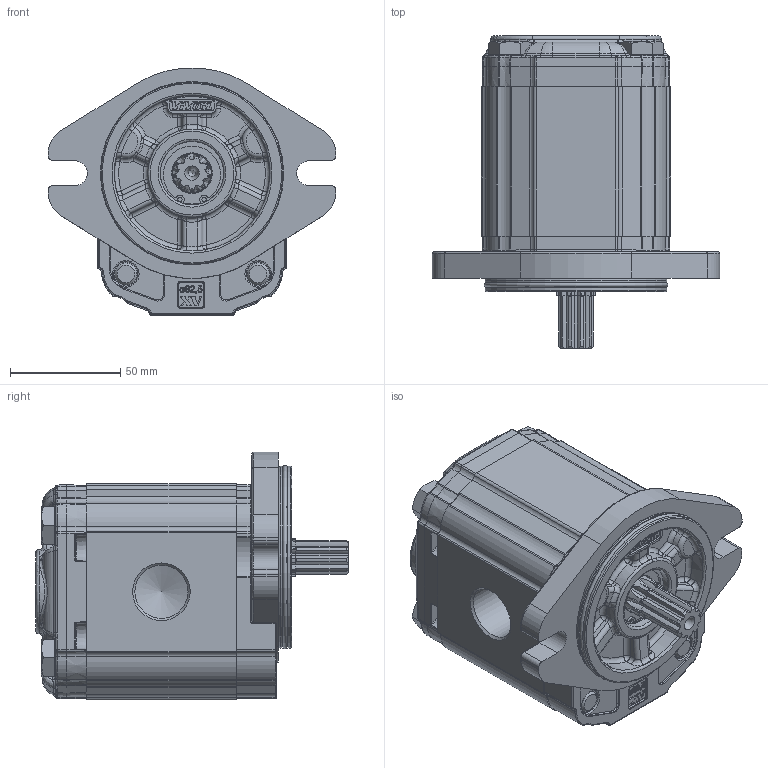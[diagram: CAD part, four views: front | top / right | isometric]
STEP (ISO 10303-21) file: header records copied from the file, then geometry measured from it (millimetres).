
FILE_DESCRIPTION(/* description */ ('Unknown'),/* implementation_level */ '2;1');
FILE_NAME(/* name */ 'X2M5131ICCF',/* time_stamp */ '2021-04-26T11:59:54+02:00',/* author */ ('Unknown'),/* organization */ ('Unknown'),/* preprocessor_version */ 'ST-DEVELOPER v16.7',/* originating_system */ 'Solid Edge',/* authorisation */ 'Unknown');
FILE_SCHEMA (('AUTOMOTIVE_DESIGN {1 0 10303 214 3 1 1}'));
Products named in the file (5): X2M5131ICCF; X2M31; 2I; X2CCH68; XM219-F
Assembly tree (4 placements, depth 2):
  X2M5131ICCF
    X2M31
    2I
    X2CCH68
    XM219-F
Bounding box: 130.38 x 141.7 x 112.3 mm (x, y, z)
Volume: 829006.2 mm3; surface area: 110404 mm2
Topology: 4 solids, 5 shells, 2113 faces, 5215 edges, 3176 vertices
Faces by surface type: cylinder 623, plane 573, bspline 513, torus 262, cone 104, sphere 38
Full cylindrical faces by diameter (mm): 2 x2, 10 x4, 10.5 x4, 11 x2, 16 x4, 17.42 x1, 18 x1, 20.595 x1, 23.332 x1, 24.117 x2, 25.834 x1, 28.5 x1, 28.56 x1, 28.57 x1, 28.8 x1, 30.4 x1, 79.6 x2, 82.5 x2
Entity records: 87672 total; most frequent: CARTESIAN_POINT 28215, ORIENTED_EDGE 10082, DIRECTION 8460, EDGE_CURVE 5041, AXIS2_PLACEMENT_3D 3219, VERTEX_POINT 3114, FACE_BOUND 2297, EDGE_LOOP 2294
